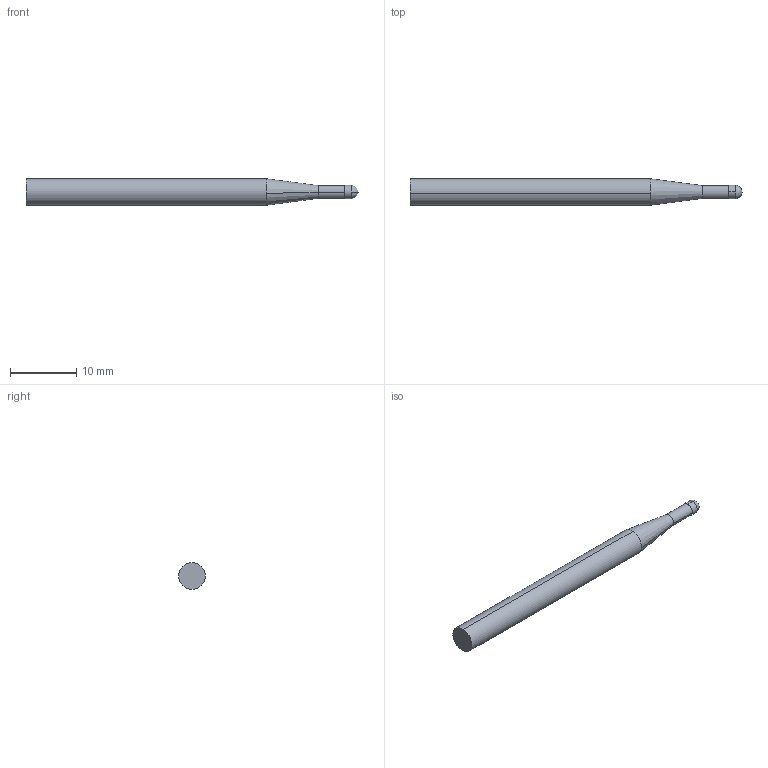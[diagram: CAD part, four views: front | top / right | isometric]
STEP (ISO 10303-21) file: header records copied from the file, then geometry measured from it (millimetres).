
FILE_DESCRIPTION (( 'STEP AP214' ), '1' );
FILE_NAME ('HM70xBNST2002-4S.STEP', '2025-05-20T15:07:50', ( '' ), ( '' ), 'SwSTEP 2.0', 'SolidWorks 2023', '' );
FILE_SCHEMA (( 'AUTOMOTIVE_DESIGN' ));
Length unit declared in the file: millimetre
Products named in the file (3): HM70xBN SHANK ONLY_HM70xBNST2002-4S; HM70xBN OD ONLY_HM70xBNST2002-4S; HM70xBNST2002-4S
Assembly tree (2 placements, depth 2):
  HM70xBNST2002-4S
    HM70xBN OD ONLY_HM70xBNST2002-4S
    HM70xBN SHANK ONLY_HM70xBNST2002-4S
Bounding box: 50 x 3.99 x 3.99 mm (x, y, z)
Volume: 528 mm3; surface area: 583.8 mm2
Topology: 2 solids, 2 shells, 13 faces, 28 edges, 17 vertices
Faces by surface type: cylinder 6, plane 3, sphere 2, cone 2
Entity records: 438 total; most frequent: DIRECTION 80, CARTESIAN_POINT 61, ORIENTED_EDGE 52, AXIS2_PLACEMENT_3D 36, EDGE_CURVE 26, CIRCLE 18, VERTEX_POINT 17, EDGE_LOOP 13
